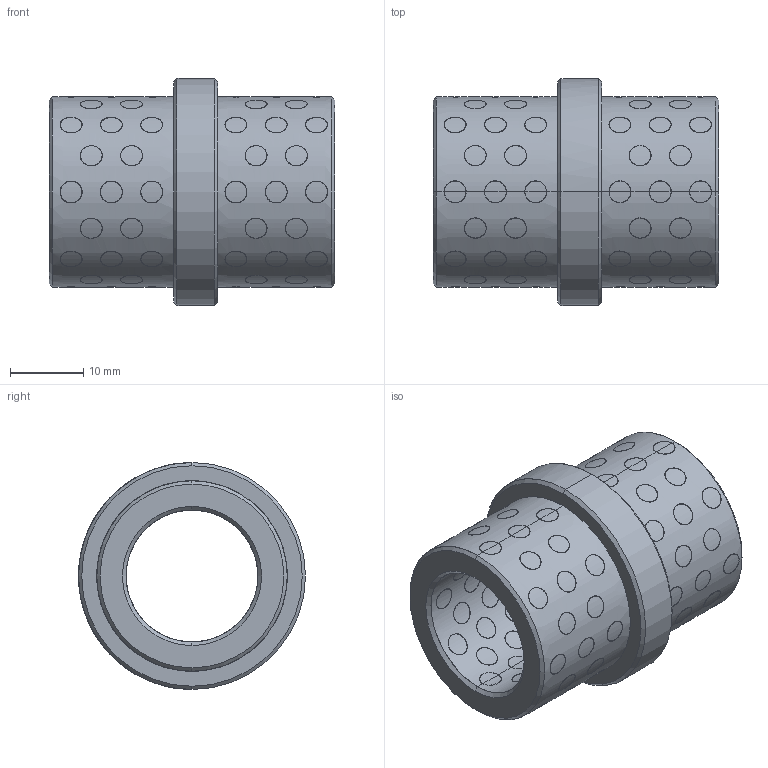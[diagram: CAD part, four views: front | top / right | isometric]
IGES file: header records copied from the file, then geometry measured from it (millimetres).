
Start section: START RECORD GO HERE.
Global section: file name: G3131822.igs; native system: DASSAULT SYSTEMES CATIA V5 R20 - www.3ds.com; preprocessor: CATIA Version 5 Release 20 ; author: r.borello; organization: CFTORINO; date: 20190624.134922; units: millimetre
Bounding box: 39 x 31 x 31 mm (x, y, z)
Surface area: 12332 mm2 (no closed solid volume)
Topology: 0 solids, 0 shells, 528 faces, 2304 edges, 2304 vertices
Faces by surface type: revolution 524, plane 4
